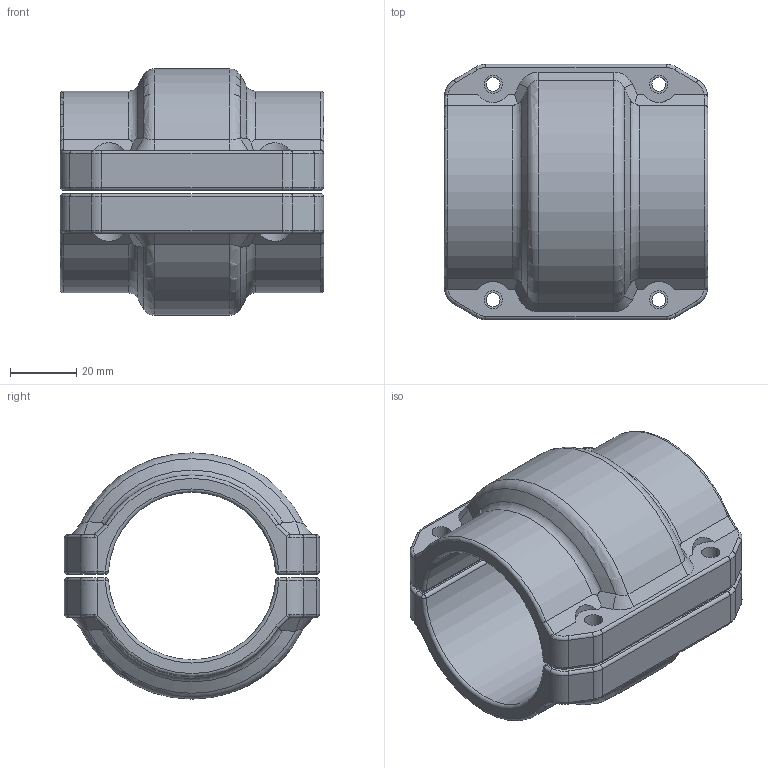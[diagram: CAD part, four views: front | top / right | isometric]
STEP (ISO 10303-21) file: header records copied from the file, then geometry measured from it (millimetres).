
FILE_DESCRIPTION((''),'2;1');
FILE_NAME('20155002_ASM_8_ASM','2017-05-15T',('Administrator'),(''),'PRO/ENGINEER BY PARAMETRIC TECHNOLOGY CORPORATION, 2009360','PRO/ENGINEER BY PARAMETRIC TECHNOLOGY CORPORATION, 2009360','');
FILE_SCHEMA(('AUTOMOTIVE_DESIGN_CC2 { 1 2 10303 214 -1 1 5 2 }'));
Length unit declared in the file: millimetre
Products named in the file (3): 201550020001_5; 201550020000_5; 20155002_ASM_8_ASM
Assembly tree (2 placements, depth 2):
  20155002_ASM_8_ASM
    201550020001_5
    201550020000_5
Bounding box: 79.5 x 77 x 74.3 mm (x, y, z)
Volume: 133771.4 mm3; surface area: 38323.3 mm2
Topology: 2 solids, 2 shells, 212 faces, 556 edges, 340 vertices
Faces by surface type: cylinder 92, torus 48, plane 36, bspline 24, sphere 8, cone 4
Entity records: 9235 total; most frequent: CARTESIAN_POINT 2407, ORIENTED_EDGE 1096, DIRECTION 1074, PRESENTATION_STYLE_ASSIGNMENT 550, STYLED_ITEM 550, CURVE_STYLE 548, EDGE_CURVE 548, AXIS2_PLACEMENT_3D 445
